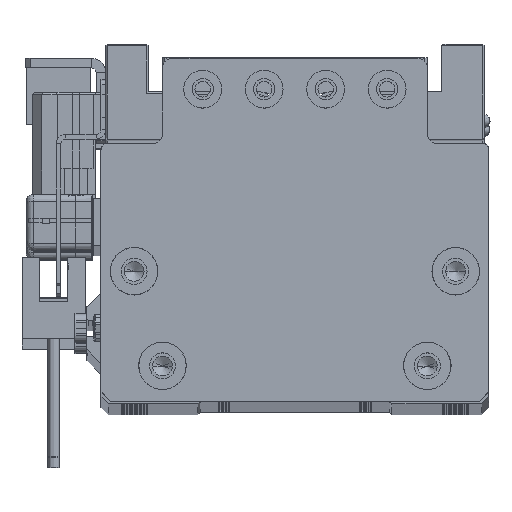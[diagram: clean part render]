
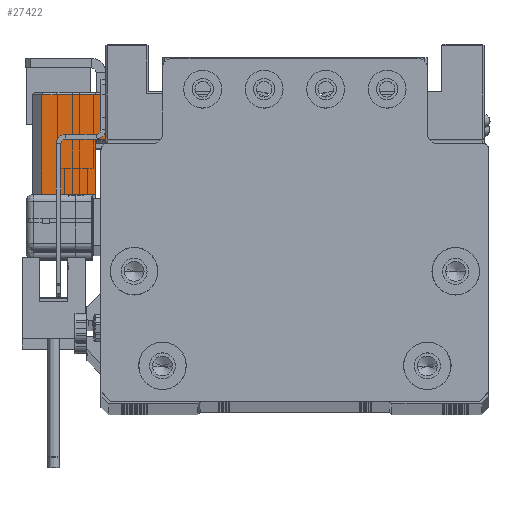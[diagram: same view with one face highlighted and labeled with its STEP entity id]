
A CAD part, top view. The second image highlights one B-rep face of the part: STEP entity #27422.
In plain terms, the highlighted planar face has unit normal (0, 0, 1) as drawn and (1, 0, 0) by its records, which use the part's own axes.
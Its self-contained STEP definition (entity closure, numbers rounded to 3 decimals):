
#371 = VECTOR ( 'NONE', #64632, 1000. ) ;
#5178 = VERTEX_POINT ( 'NONE', #13175 ) ;
#6713 = CARTESIAN_POINT ( 'NONE',  ( 17., -10.75, -2. ) ) ;
#8178 = LINE ( 'NONE', #48790, #30418 ) ;
#8923 = VERTEX_POINT ( 'NONE', #32240 ) ;
#9778 = DIRECTION ( 'NONE',  ( 0., 1., 0. ) ) ;
#13050 = PLANE ( 'NONE',  #39332 ) ;
#13175 = CARTESIAN_POINT ( 'NONE',  ( 17., 10.25, -15.5 ) ) ;
#13849 = ORIENTED_EDGE ( 'NONE', *, *, #34829, .T. ) ;
#17874 = VECTOR ( 'NONE', #9778, 1000. ) ;
#18566 = LINE ( 'NONE', #43529, #21878 ) ;
#20146 = LINE ( 'NONE', #45130, #21310 ) ;
#21310 = VECTOR ( 'NONE', #40109, 1000. ) ;
#21404 = ORIENTED_EDGE ( 'NONE', *, *, #38923, .T. ) ;
#21878 = VECTOR ( 'NONE', #64140, 1000. ) ;
#22707 = DIRECTION ( 'NONE',  ( 0., 0., -1. ) ) ;
#22978 = CARTESIAN_POINT ( 'NONE',  ( 17., 0.75, -15.5 ) ) ;
#27422 = ADVANCED_FACE ( 'NONE', ( #59314 ), #13050, .T. ) ;
#27439 = ORIENTED_EDGE ( 'NONE', *, *, #31486, .F. ) ;
#28739 = DIRECTION ( 'NONE',  ( 0., -1., 0. ) ) ;
#29019 = CARTESIAN_POINT ( 'NONE',  ( 17., -10.75, -2. ) ) ;
#29724 = LINE ( 'NONE', #31044, #17874 ) ;
#30418 = VECTOR ( 'NONE', #42776, 1000. ) ;
#30716 = VERTEX_POINT ( 'NONE', #45529 ) ;
#31044 = CARTESIAN_POINT ( 'NONE',  ( 17., -10.75, -15.5 ) ) ;
#31486 = EDGE_CURVE ( 'NONE', #30716, #8923, #42723, .T. ) ;
#32240 = CARTESIAN_POINT ( 'NONE',  ( 17., -10.75, -13.3 ) ) ;
#33970 = CARTESIAN_POINT ( 'NONE',  ( 17., 10.25, -2. ) ) ;
#34829 = EDGE_CURVE ( 'NONE', #5178, #44003, #20146, .T. ) ;
#38923 = EDGE_CURVE ( 'NONE', #44003, #42527, #49680, .T. ) ;
#39332 = AXIS2_PLACEMENT_3D ( 'NONE', #43010, #54002, #22707 ) ;
#40109 = DIRECTION ( 'NONE',  ( 0., 0., 1. ) ) ;
#42527 = VERTEX_POINT ( 'NONE', #6713 ) ;
#42723 = LINE ( 'NONE', #58705, #64449 ) ;
#42776 = DIRECTION ( 'NONE',  ( 0., 0., 1. ) ) ;
#43010 = CARTESIAN_POINT ( 'NONE',  ( 17., -10.75, -15.5 ) ) ;
#43529 = CARTESIAN_POINT ( 'NONE',  ( 17., -10.75, -15.5 ) ) ;
#43806 = ORIENTED_EDGE ( 'NONE', *, *, #45324, .F. ) ;
#44003 = VERTEX_POINT ( 'NONE', #33970 ) ;
#44881 = VERTEX_POINT ( 'NONE', #22978 ) ;
#45130 = CARTESIAN_POINT ( 'NONE',  ( 17., 10.25, -15.5 ) ) ;
#45324 = EDGE_CURVE ( 'NONE', #8923, #42527, #18566, .T. ) ;
#45529 = CARTESIAN_POINT ( 'NONE',  ( 17., 0.75, -13.3 ) ) ;
#45805 = EDGE_CURVE ( 'NONE', #44881, #30716, #8178, .T. ) ;
#45986 = ORIENTED_EDGE ( 'NONE', *, *, #48935, .T. ) ;
#46278 = ORIENTED_EDGE ( 'NONE', *, *, #45805, .F. ) ;
#48790 = CARTESIAN_POINT ( 'NONE',  ( 17., 0.75, -15.5 ) ) ;
#48935 = EDGE_CURVE ( 'NONE', #44881, #5178, #29724, .T. ) ;
#49680 = LINE ( 'NONE', #29019, #371 ) ;
#54002 = DIRECTION ( 'NONE',  ( 1., 0., 0. ) ) ;
#55269 = EDGE_LOOP ( 'NONE', ( #45986, #13849, #21404, #43806, #27439, #46278 ) ) ;
#58705 = CARTESIAN_POINT ( 'NONE',  ( 17., -10.75, -13.3 ) ) ;
#59314 = FACE_OUTER_BOUND ( 'NONE', #55269, .T. ) ;
#64140 = DIRECTION ( 'NONE',  ( 0., 0., 1. ) ) ;
#64449 = VECTOR ( 'NONE', #28739, 1000. ) ;
#64632 = DIRECTION ( 'NONE',  ( 0., -1., 0. ) ) ;
